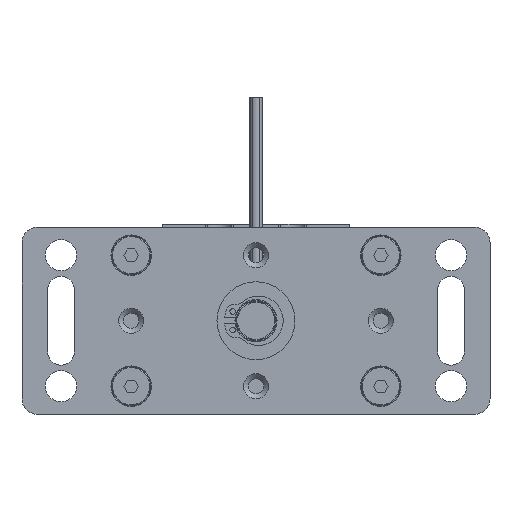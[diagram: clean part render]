
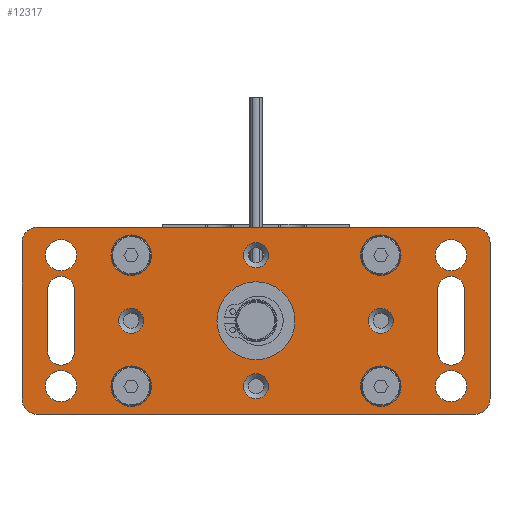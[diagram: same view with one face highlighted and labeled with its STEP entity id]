
A CAD part, front view. The second image highlights one B-rep face of the part: STEP entity #12317.
In plain terms, the highlighted planar face has unit normal (0, -1, 0).
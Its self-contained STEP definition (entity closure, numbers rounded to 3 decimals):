
#819=LINE('',#18030,#1486);
#820=LINE('',#18034,#1487);
#821=LINE('',#18041,#1488);
#822=LINE('',#18046,#1489);
#823=LINE('',#18050,#1490);
#824=LINE('',#18054,#1491);
#825=LINE('',#18077,#1492);
#826=LINE('',#18082,#1493);
#1486=VECTOR('',#14676,1000.);
#1487=VECTOR('',#14679,1000.);
#1488=VECTOR('',#14686,1000.);
#1489=VECTOR('',#14689,1000.);
#1490=VECTOR('',#14692,1000.);
#1491=VECTOR('',#14695,1000.);
#1492=VECTOR('',#14718,1000.);
#1493=VECTOR('',#14721,1000.);
#2631=ORIENTED_EDGE('',*,*,#5620,.F.);
#2632=ORIENTED_EDGE('',*,*,#5621,.F.);
#2633=ORIENTED_EDGE('',*,*,#5622,.F.);
#2634=ORIENTED_EDGE('',*,*,#5623,.F.);
#2635=ORIENTED_EDGE('',*,*,#5624,.F.);
#2636=ORIENTED_EDGE('',*,*,#5625,.T.);
#2637=ORIENTED_EDGE('',*,*,#5626,.F.);
#2638=ORIENTED_EDGE('',*,*,#5627,.T.);
#2639=ORIENTED_EDGE('',*,*,#5628,.T.);
#2640=ORIENTED_EDGE('',*,*,#5629,.T.);
#2641=ORIENTED_EDGE('',*,*,#5630,.T.);
#2642=ORIENTED_EDGE('',*,*,#5631,.T.);
#2643=ORIENTED_EDGE('',*,*,#5632,.T.);
#2644=ORIENTED_EDGE('',*,*,#5633,.T.);
#2645=ORIENTED_EDGE('',*,*,#5634,.T.);
#2646=ORIENTED_EDGE('',*,*,#5635,.F.);
#2647=ORIENTED_EDGE('',*,*,#5636,.T.);
#2648=ORIENTED_EDGE('',*,*,#5637,.F.);
#2649=ORIENTED_EDGE('',*,*,#5638,.F.);
#2650=ORIENTED_EDGE('',*,*,#5639,.F.);
#2651=ORIENTED_EDGE('',*,*,#5640,.F.);
#2652=ORIENTED_EDGE('',*,*,#5641,.T.);
#2653=ORIENTED_EDGE('',*,*,#5642,.T.);
#2654=ORIENTED_EDGE('',*,*,#5643,.T.);
#2655=ORIENTED_EDGE('',*,*,#5644,.T.);
#2656=ORIENTED_EDGE('',*,*,#5645,.T.);
#2657=ORIENTED_EDGE('',*,*,#5646,.T.);
#2658=ORIENTED_EDGE('',*,*,#5647,.T.);
#2659=ORIENTED_EDGE('',*,*,#5648,.T.);
#5620=EDGE_CURVE('',#7147,#7148,#8105,.T.);
#5621=EDGE_CURVE('',#7149,#7147,#819,.T.);
#5622=EDGE_CURVE('',#7150,#7149,#8106,.T.);
#5623=EDGE_CURVE('',#7148,#7150,#820,.T.);
#5624=EDGE_CURVE('',#7151,#7151,#8107,.T.);
#5625=EDGE_CURVE('',#7152,#7152,#8108,.T.);
#5626=EDGE_CURVE('',#7153,#7153,#8109,.T.);
#5627=EDGE_CURVE('',#7154,#7155,#821,.T.);
#5628=EDGE_CURVE('',#7155,#7156,#8110,.T.);
#5629=EDGE_CURVE('',#7156,#7157,#822,.T.);
#5630=EDGE_CURVE('',#7157,#7158,#8111,.T.);
#5631=EDGE_CURVE('',#7158,#7159,#823,.T.);
#5632=EDGE_CURVE('',#7159,#7160,#8112,.T.);
#5633=EDGE_CURVE('',#7160,#7161,#824,.T.);
#5634=EDGE_CURVE('',#7161,#7154,#8113,.T.);
#5635=EDGE_CURVE('',#7162,#7162,#8114,.T.);
#5636=EDGE_CURVE('',#7163,#7163,#8115,.T.);
#5637=EDGE_CURVE('',#7164,#7164,#8116,.T.);
#5638=EDGE_CURVE('',#7165,#7165,#8117,.T.);
#5639=EDGE_CURVE('',#7166,#7166,#8118,.T.);
#5640=EDGE_CURVE('',#7167,#7167,#8119,.T.);
#5641=EDGE_CURVE('',#7168,#7168,#8120,.F.);
#5642=EDGE_CURVE('',#7169,#7169,#8121,.F.);
#5643=EDGE_CURVE('',#7170,#7170,#8122,.F.);
#5644=EDGE_CURVE('',#7171,#7171,#8123,.F.);
#5645=EDGE_CURVE('',#7172,#7173,#825,.T.);
#5646=EDGE_CURVE('',#7173,#7174,#8124,.T.);
#5647=EDGE_CURVE('',#7174,#7175,#826,.T.);
#5648=EDGE_CURVE('',#7175,#7172,#8125,.T.);
#7147=VERTEX_POINT('',#18028);
#7148=VERTEX_POINT('',#18029);
#7149=VERTEX_POINT('',#18031);
#7150=VERTEX_POINT('',#18033);
#7151=VERTEX_POINT('',#18036);
#7152=VERTEX_POINT('',#18038);
#7153=VERTEX_POINT('',#18040);
#7154=VERTEX_POINT('',#18042);
#7155=VERTEX_POINT('',#18043);
#7156=VERTEX_POINT('',#18045);
#7157=VERTEX_POINT('',#18047);
#7158=VERTEX_POINT('',#18049);
#7159=VERTEX_POINT('',#18051);
#7160=VERTEX_POINT('',#18053);
#7161=VERTEX_POINT('',#18055);
#7162=VERTEX_POINT('',#18058);
#7163=VERTEX_POINT('',#18060);
#7164=VERTEX_POINT('',#18062);
#7165=VERTEX_POINT('',#18064);
#7166=VERTEX_POINT('',#18066);
#7167=VERTEX_POINT('',#18068);
#7168=VERTEX_POINT('',#18070);
#7169=VERTEX_POINT('',#18072);
#7170=VERTEX_POINT('',#18074);
#7171=VERTEX_POINT('',#18076);
#7172=VERTEX_POINT('',#18078);
#7173=VERTEX_POINT('',#18079);
#7174=VERTEX_POINT('',#18081);
#7175=VERTEX_POINT('',#18083);
#8105=CIRCLE('',#13185,4.25);
#8106=CIRCLE('',#13186,4.25);
#8107=CIRCLE('',#13187,12.5);
#8108=CIRCLE('',#13188,5.);
#8109=CIRCLE('',#13189,5.);
#8110=CIRCLE('',#13190,5.);
#8111=CIRCLE('',#13191,5.);
#8112=CIRCLE('',#13192,5.);
#8113=CIRCLE('',#13193,5.);
#8114=CIRCLE('',#13194,5.);
#8115=CIRCLE('',#13195,5.);
#8116=CIRCLE('',#13196,6.5);
#8117=CIRCLE('',#13197,6.5);
#8118=CIRCLE('',#13198,6.5);
#8119=CIRCLE('',#13199,6.5);
#8120=CIRCLE('',#13200,3.999);
#8121=CIRCLE('',#13201,3.999);
#8122=CIRCLE('',#13202,3.999);
#8123=CIRCLE('',#13203,3.999);
#8124=CIRCLE('',#13204,4.25);
#8125=CIRCLE('',#13205,4.25);
#8696=EDGE_LOOP('',(#2631,#2632,#2633,#2634));
#8697=EDGE_LOOP('',(#2635));
#8698=EDGE_LOOP('',(#2636));
#8699=EDGE_LOOP('',(#2637));
#8700=EDGE_LOOP('',(#2638,#2639,#2640,#2641,#2642,#2643,#2644,#2645));
#8701=EDGE_LOOP('',(#2646));
#8702=EDGE_LOOP('',(#2647));
#8703=EDGE_LOOP('',(#2648));
#8704=EDGE_LOOP('',(#2649));
#8705=EDGE_LOOP('',(#2650));
#8706=EDGE_LOOP('',(#2651));
#8707=EDGE_LOOP('',(#2652));
#8708=EDGE_LOOP('',(#2653));
#8709=EDGE_LOOP('',(#2654));
#8710=EDGE_LOOP('',(#2655));
#8711=EDGE_LOOP('',(#2656,#2657,#2658,#2659));
#9640=FACE_BOUND('',#8696,.T.);
#9641=FACE_BOUND('',#8697,.T.);
#9642=FACE_BOUND('',#8698,.T.);
#9643=FACE_BOUND('',#8699,.T.);
#9644=FACE_BOUND('',#8700,.T.);
#9645=FACE_BOUND('',#8701,.T.);
#9646=FACE_BOUND('',#8702,.T.);
#9647=FACE_BOUND('',#8703,.T.);
#9648=FACE_BOUND('',#8704,.T.);
#9649=FACE_BOUND('',#8705,.T.);
#9650=FACE_BOUND('',#8706,.T.);
#9651=FACE_BOUND('',#8707,.T.);
#9652=FACE_BOUND('',#8708,.T.);
#9653=FACE_BOUND('',#8709,.T.);
#9654=FACE_BOUND('',#8710,.T.);
#9655=FACE_BOUND('',#8711,.T.);
#10483=PLANE('',#13184);
#12317=ADVANCED_FACE('',(#9640,#9641,#9642,#9643,#9644,#9645,#9646,#9647,
#9648,#9649,#9650,#9651,#9652,#9653,#9654,#9655),#10483,.T.);
#13184=AXIS2_PLACEMENT_3D('',#18026,#14672,#14673);
#13185=AXIS2_PLACEMENT_3D('',#18027,#14674,#14675);
#13186=AXIS2_PLACEMENT_3D('',#18032,#14677,#14678);
#13187=AXIS2_PLACEMENT_3D('',#18035,#14680,#14681);
#13188=AXIS2_PLACEMENT_3D('',#18037,#14682,#14683);
#13189=AXIS2_PLACEMENT_3D('',#18039,#14684,#14685);
#13190=AXIS2_PLACEMENT_3D('',#18044,#14687,#14688);
#13191=AXIS2_PLACEMENT_3D('',#18048,#14690,#14691);
#13192=AXIS2_PLACEMENT_3D('',#18052,#14693,#14694);
#13193=AXIS2_PLACEMENT_3D('',#18056,#14696,#14697);
#13194=AXIS2_PLACEMENT_3D('',#18057,#14698,#14699);
#13195=AXIS2_PLACEMENT_3D('',#18059,#14700,#14701);
#13196=AXIS2_PLACEMENT_3D('',#18061,#14702,#14703);
#13197=AXIS2_PLACEMENT_3D('',#18063,#14704,#14705);
#13198=AXIS2_PLACEMENT_3D('',#18065,#14706,#14707);
#13199=AXIS2_PLACEMENT_3D('',#18067,#14708,#14709);
#13200=AXIS2_PLACEMENT_3D('',#18069,#14710,#14711);
#13201=AXIS2_PLACEMENT_3D('',#18071,#14712,#14713);
#13202=AXIS2_PLACEMENT_3D('',#18073,#14714,#14715);
#13203=AXIS2_PLACEMENT_3D('',#18075,#14716,#14717);
#13204=AXIS2_PLACEMENT_3D('',#18080,#14719,#14720);
#13205=AXIS2_PLACEMENT_3D('',#18084,#14722,#14723);
#14672=DIRECTION('',(0.,-1.,0.));
#14673=DIRECTION('',(0.,0.,-1.));
#14674=DIRECTION('',(0.,-1.,0.));
#14675=DIRECTION('',(1.,0.,0.));
#14676=DIRECTION('',(0.,0.,1.));
#14677=DIRECTION('',(0.,-1.,0.));
#14678=DIRECTION('',(-1.,0.,0.));
#14679=DIRECTION('',(0.,0.,-1.));
#14680=DIRECTION('',(0.,-1.,0.));
#14681=DIRECTION('',(0.,0.,-1.));
#14682=DIRECTION('',(0.,1.,0.));
#14683=DIRECTION('',(1.,0.,0.));
#14684=DIRECTION('',(0.,-1.,0.));
#14685=DIRECTION('',(1.,0.,0.));
#14686=DIRECTION('',(0.,0.,1.));
#14687=DIRECTION('',(0.,-1.,0.));
#14688=DIRECTION('',(0.,0.,-1.));
#14689=DIRECTION('',(-1.,0.,0.));
#14690=DIRECTION('',(0.,-1.,0.));
#14691=DIRECTION('',(0.,0.,-1.));
#14692=DIRECTION('',(0.,0.,-1.));
#14693=DIRECTION('',(0.,-1.,0.));
#14694=DIRECTION('',(0.,0.,-1.));
#14695=DIRECTION('',(1.,0.,0.));
#14696=DIRECTION('',(0.,-1.,0.));
#14697=DIRECTION('',(0.,0.,-1.));
#14698=DIRECTION('',(0.,-1.,0.));
#14699=DIRECTION('',(1.,0.,0.));
#14700=DIRECTION('',(0.,1.,0.));
#14701=DIRECTION('',(1.,0.,0.));
#14702=DIRECTION('',(0.,-1.,0.));
#14703=DIRECTION('',(1.,0.,0.));
#14704=DIRECTION('',(0.,-1.,0.));
#14705=DIRECTION('',(0.,0.,-1.));
#14706=DIRECTION('',(0.,-1.,0.));
#14707=DIRECTION('',(0.,0.,-1.));
#14708=DIRECTION('',(0.,-1.,0.));
#14709=DIRECTION('',(0.,0.,-1.));
#14710=DIRECTION('',(0.,-1.,0.));
#14711=DIRECTION('',(0.,0.,-1.));
#14712=DIRECTION('',(0.,-1.,0.));
#14713=DIRECTION('',(0.,0.,-1.));
#14714=DIRECTION('',(0.,-1.,0.));
#14715=DIRECTION('',(0.,0.,-1.));
#14716=DIRECTION('',(0.,-1.,0.));
#14717=DIRECTION('',(0.,0.,-1.));
#14718=DIRECTION('',(0.,0.,1.));
#14719=DIRECTION('',(0.,1.,0.));
#14720=DIRECTION('',(-1.,0.,0.));
#14721=DIRECTION('',(0.,0.,-1.));
#14722=DIRECTION('',(0.,1.,0.));
#14723=DIRECTION('',(1.,0.,0.));
#18026=CARTESIAN_POINT('',(-75.,0.,-30.));
#18027=CARTESIAN_POINT('',(-62.5,0.,10.));
#18028=CARTESIAN_POINT('',(-58.25,0.,10.));
#18029=CARTESIAN_POINT('',(-66.75,0.,10.));
#18030=CARTESIAN_POINT('',(-58.25,0.,10.));
#18031=CARTESIAN_POINT('',(-58.25,0.,-10.));
#18032=CARTESIAN_POINT('',(-62.5,0.,-10.));
#18033=CARTESIAN_POINT('',(-66.75,0.,-10.));
#18034=CARTESIAN_POINT('',(-66.75,0.,10.));
#18035=CARTESIAN_POINT('',(0.,0.,0.));
#18036=CARTESIAN_POINT('',(0.,0.,-12.5));
#18037=CARTESIAN_POINT('',(62.5,0.,-21.));
#18038=CARTESIAN_POINT('',(67.5,0.,-21.));
#18039=CARTESIAN_POINT('',(62.5,0.,21.));
#18040=CARTESIAN_POINT('',(67.5,0.,21.));
#18041=CARTESIAN_POINT('',(75.,0.,-30.));
#18042=CARTESIAN_POINT('',(75.,0.,-25.));
#18043=CARTESIAN_POINT('',(75.,0.,25.));
#18044=CARTESIAN_POINT('',(70.,0.,25.));
#18045=CARTESIAN_POINT('',(70.,0.,30.));
#18046=CARTESIAN_POINT('',(75.,0.,30.));
#18047=CARTESIAN_POINT('',(-70.,0.,30.));
#18048=CARTESIAN_POINT('',(-70.,0.,25.));
#18049=CARTESIAN_POINT('',(-75.,0.,25.));
#18050=CARTESIAN_POINT('',(-75.,0.,30.));
#18051=CARTESIAN_POINT('',(-75.,0.,-25.));
#18052=CARTESIAN_POINT('',(-70.,0.,-25.));
#18053=CARTESIAN_POINT('',(-70.,0.,-30.));
#18054=CARTESIAN_POINT('',(-75.,0.,-30.));
#18055=CARTESIAN_POINT('',(70.,0.,-30.));
#18056=CARTESIAN_POINT('',(70.,0.,-25.));
#18057=CARTESIAN_POINT('',(-62.5,0.,-21.));
#18058=CARTESIAN_POINT('',(-57.5,0.,-21.));
#18059=CARTESIAN_POINT('',(-62.5,0.,21.));
#18060=CARTESIAN_POINT('',(-57.5,0.,21.));
#18061=CARTESIAN_POINT('',(40.,0.,21.));
#18062=CARTESIAN_POINT('',(46.5,0.,21.));
#18063=CARTESIAN_POINT('',(40.,0.,-21.));
#18064=CARTESIAN_POINT('',(40.,0.,-27.5));
#18065=CARTESIAN_POINT('',(-40.,0.,21.));
#18066=CARTESIAN_POINT('',(-40.,0.,14.5));
#18067=CARTESIAN_POINT('',(-40.,0.,-21.));
#18068=CARTESIAN_POINT('',(-40.,0.,-27.5));
#18069=CARTESIAN_POINT('',(40.,0.,0.));
#18070=CARTESIAN_POINT('',(40.,0.,-3.999));
#18071=CARTESIAN_POINT('',(0.,0.,21.));
#18072=CARTESIAN_POINT('',(0.,0.,17.002));
#18073=CARTESIAN_POINT('',(-40.,0.,0.));
#18074=CARTESIAN_POINT('',(-40.,0.,-3.999));
#18075=CARTESIAN_POINT('',(0.,0.,-21.));
#18076=CARTESIAN_POINT('',(0.,0.,-24.999));
#18077=CARTESIAN_POINT('',(58.25,0.,10.));
#18078=CARTESIAN_POINT('',(58.25,0.,-10.));
#18079=CARTESIAN_POINT('',(58.25,0.,10.));
#18080=CARTESIAN_POINT('',(62.5,0.,10.));
#18081=CARTESIAN_POINT('',(66.75,0.,10.));
#18082=CARTESIAN_POINT('',(66.75,0.,10.));
#18083=CARTESIAN_POINT('',(66.75,0.,-10.));
#18084=CARTESIAN_POINT('',(62.5,0.,-10.));
